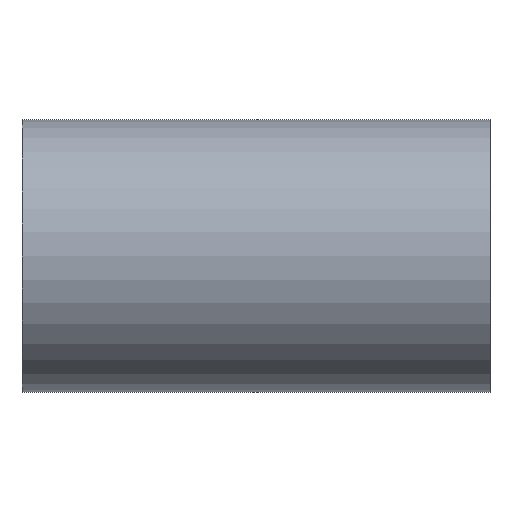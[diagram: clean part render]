
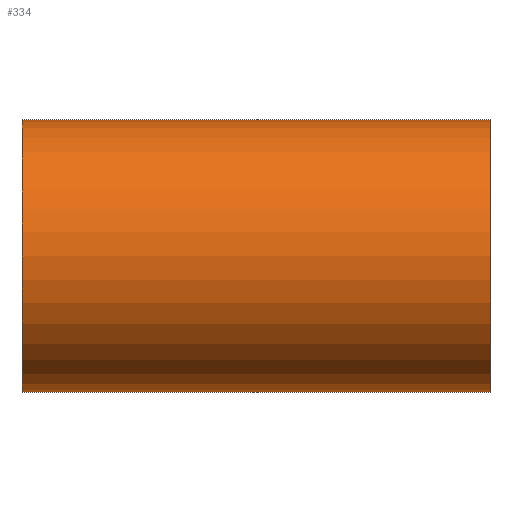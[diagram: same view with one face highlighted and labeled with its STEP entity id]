
A CAD part, front view. The second image highlights one B-rep face of the part: STEP entity #334.
In plain terms, the highlighted cylindrical face has radius 50.8 mm (diameter 101.6 mm), a partial arc.
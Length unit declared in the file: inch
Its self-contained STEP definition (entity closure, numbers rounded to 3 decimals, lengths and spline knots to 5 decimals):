
#15 = CARTESIAN_POINT ( 'NONE',  ( 3.4375, 0., 2. ) ) ;
#20 = EDGE_LOOP ( 'NONE', ( #265, #335, #29, #297, #111, #135 ) ) ;
#29 = ORIENTED_EDGE ( 'NONE', *, *, #290, .T. ) ;
#32 = CYLINDRICAL_SURFACE ( 'NONE', #295, 2. ) ;
#34 = DIRECTION ( 'NONE',  ( -1., 0., 0. ) ) ;
#39 = FACE_OUTER_BOUND ( 'NONE', #20, .T. ) ;
#62 = AXIS2_PLACEMENT_3D ( 'NONE', #246, #100, #99 ) ;
#69 = VERTEX_POINT ( 'NONE', #263 ) ;
#75 = AXIS2_PLACEMENT_3D ( 'NONE', #243, #240, #213 ) ;
#80 = VECTOR ( 'NONE', #120, 39.37008 ) ;
#95 = CARTESIAN_POINT ( 'NONE',  ( 3.4375, 0., 2. ) ) ;
#99 = DIRECTION ( 'NONE',  ( 0., 0., -1. ) ) ;
#100 = DIRECTION ( 'NONE',  ( 1., 0., 0. ) ) ;
#111 = ORIENTED_EDGE ( 'NONE', *, *, #274, .T. ) ;
#115 = VERTEX_POINT ( 'NONE', #392 ) ;
#120 = DIRECTION ( 'NONE',  ( -1., 0., 0. ) ) ;
#135 = ORIENTED_EDGE ( 'NONE', *, *, #140, .F. ) ;
#140 = EDGE_CURVE ( 'NONE', #270, #323, #173, .T. ) ;
#145 = CARTESIAN_POINT ( 'NONE',  ( 3.4375, 0., -2. ) ) ;
#162 = LINE ( 'NONE', #271, #80 ) ;
#173 = LINE ( 'NONE', #145, #204 ) ;
#177 = VECTOR ( 'NONE', #353, 39.37008 ) ;
#204 = VECTOR ( 'NONE', #34, 39.37008 ) ;
#213 = DIRECTION ( 'NONE',  ( 0., 0., -1. ) ) ;
#217 = CARTESIAN_POINT ( 'NONE',  ( 0., 0., -2. ) ) ;
#224 = VECTOR ( 'NONE', #237, 39.37008 ) ;
#237 = DIRECTION ( 'NONE',  ( -1., 0., 0. ) ) ;
#239 = LINE ( 'NONE', #15, #177 ) ;
#240 = DIRECTION ( 'NONE',  ( 1., 0., 0. ) ) ;
#243 = CARTESIAN_POINT ( 'NONE',  ( -3.4375, 0., 0. ) ) ;
#246 = CARTESIAN_POINT ( 'NONE',  ( 3.4375, 0., 0. ) ) ;
#263 = CARTESIAN_POINT ( 'NONE',  ( -3.4375, 0., 2. ) ) ;
#265 = ORIENTED_EDGE ( 'NONE', *, *, #318, .F. ) ;
#270 = VERTEX_POINT ( 'NONE', #217 ) ;
#271 = CARTESIAN_POINT ( 'NONE',  ( 3.4375, 0., -2. ) ) ;
#272 = CARTESIAN_POINT ( 'NONE',  ( 3.4375, 0., -2. ) ) ;
#274 = EDGE_CURVE ( 'NONE', #69, #323, #396, .T. ) ;
#276 = CARTESIAN_POINT ( 'NONE',  ( 3.4375, 0., 2. ) ) ;
#281 = EDGE_CURVE ( 'NONE', #422, #423, #291, .T. ) ;
#286 = EDGE_CURVE ( 'NONE', #115, #69, #333, .T. ) ;
#290 = EDGE_CURVE ( 'NONE', #422, #115, #239, .T. ) ;
#291 = CIRCLE ( 'NONE', #62, 2. ) ;
#295 = AXIS2_PLACEMENT_3D ( 'NONE', #403, #431, #440 ) ;
#297 = ORIENTED_EDGE ( 'NONE', *, *, #286, .T. ) ;
#318 = EDGE_CURVE ( 'NONE', #423, #270, #162, .T. ) ;
#323 = VERTEX_POINT ( 'NONE', #427 ) ;
#333 = LINE ( 'NONE', #95, #224 ) ;
#334 = ADVANCED_FACE ( 'NONE', ( #39 ), #32, .T. ) ;
#335 = ORIENTED_EDGE ( 'NONE', *, *, #281, .F. ) ;
#353 = DIRECTION ( 'NONE',  ( -1., 0., 0. ) ) ;
#392 = CARTESIAN_POINT ( 'NONE',  ( 0., 0., 2. ) ) ;
#396 = CIRCLE ( 'NONE', #75, 2. ) ;
#403 = CARTESIAN_POINT ( 'NONE',  ( 3.4375, 0., 0. ) ) ;
#422 = VERTEX_POINT ( 'NONE', #276 ) ;
#423 = VERTEX_POINT ( 'NONE', #272 ) ;
#427 = CARTESIAN_POINT ( 'NONE',  ( -3.4375, 0., -2. ) ) ;
#431 = DIRECTION ( 'NONE',  ( -1., 0., 0. ) ) ;
#440 = DIRECTION ( 'NONE',  ( 0., 0., 1. ) ) ;
